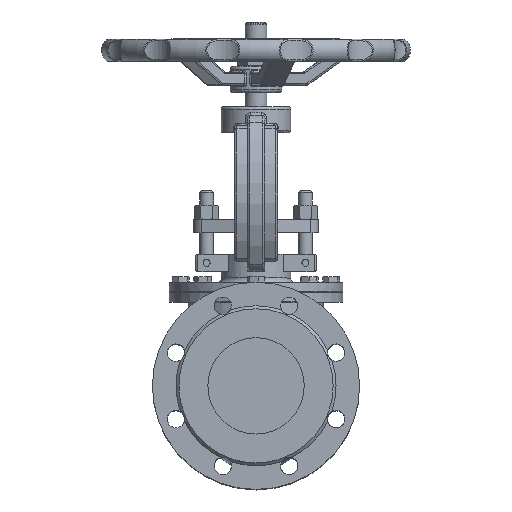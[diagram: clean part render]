
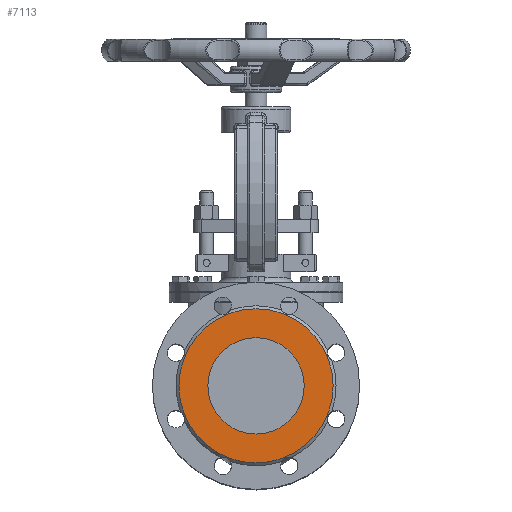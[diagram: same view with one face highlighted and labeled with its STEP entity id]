
A CAD part, top view. The second image highlights one B-rep face of the part: STEP entity #7113.
In plain terms, the highlighted planar face has unit normal (0, 0, 1).
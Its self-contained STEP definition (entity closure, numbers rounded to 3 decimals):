
#7113=ADVANCED_FACE('',(#16781,#16783),#16785,.F.);
#16781=FACE_BOUND('',#16782,.T.);
#16782=EDGE_LOOP('',(#25652));
#16783=FACE_BOUND('',#16784,.T.);
#16784=EDGE_LOOP('',(#25653));
#16785=PLANE('',#16786);
#16786=AXIS2_PLACEMENT_3D('',#16787,#16788,#16789);
#16787=CARTESIAN_POINT('',(0.,0.,175.));
#16788=DIRECTION('',(0.,0.,-1.));
#16789=DIRECTION('',(0.,1.,0.));
#25652=ORIENTED_EDGE('',*,*,#29077,.T.);
#25653=ORIENTED_EDGE('',*,*,#29262,.F.);
#29077=EDGE_CURVE('',#32958,#32958,#32959,.T.);
#29262=EDGE_CURVE('',#33268,#33268,#33269,.T.);
#32958=VERTEX_POINT('',#61966);
#32959=CIRCLE('',#61967,80.);
#33268=VERTEX_POINT('',#64298);
#33269=CIRCLE('',#64299,50.);
#61966=CARTESIAN_POINT('',(0.,80.,175.));
#61967=AXIS2_PLACEMENT_3D('',#61968,#61969,#61970);
#61968=CARTESIAN_POINT('',(0.,0.,175.));
#61969=DIRECTION('',(0.,0.,1.));
#61970=DIRECTION('',(0.,1.,0.));
#64298=CARTESIAN_POINT('',(-50.,0.,175.));
#64299=AXIS2_PLACEMENT_3D('',#64300,#64301,#64302);
#64300=CARTESIAN_POINT('',(0.,0.,175.));
#64301=DIRECTION('',(0.,0.,1.));
#64302=DIRECTION('',(0.,1.,0.));
